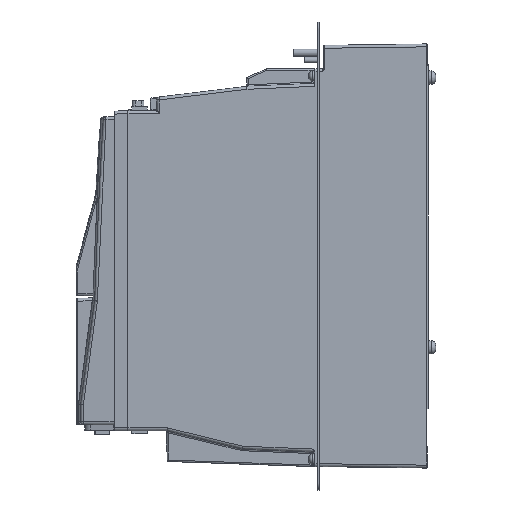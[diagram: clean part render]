
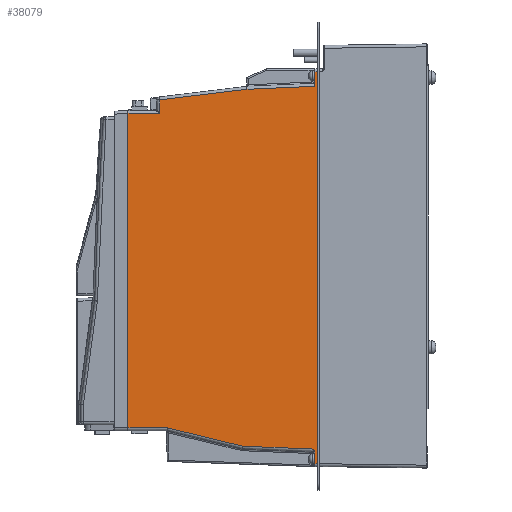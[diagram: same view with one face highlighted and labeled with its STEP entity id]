
A CAD part, left-side view. The second image highlights one B-rep face of the part: STEP entity #38079.
In plain terms, the highlighted planar face has unit normal (-1, 0, 0).
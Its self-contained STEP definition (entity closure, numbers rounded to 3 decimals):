
#504 = VERTEX_POINT ( 'NONE', #5247 ) ;
#1966 = EDGE_LOOP ( 'NONE', ( #31882, #2974, #8842, #34668, #6855, #27741, #6522, #6701, #5317, #6572, #7888, #35345, #17803, #39759 ) ) ;
#2077 = LINE ( 'NONE', #13744, #35202 ) ;
#2097 = DIRECTION ( 'NONE',  ( 0., 0., -1. ) ) ;
#2890 = CARTESIAN_POINT ( 'NONE',  ( -64., 76.5, -287. ) ) ;
#2974 = ORIENTED_EDGE ( 'NONE', *, *, #7722, .T. ) ;
#3319 = VECTOR ( 'NONE', #45098, 1000. ) ;
#3905 = CARTESIAN_POINT ( 'NONE',  ( -64., 202.8, -19. ) ) ;
#4047 = AXIS2_PLACEMENT_3D ( 'NONE', #44123, #29031, #44361 ) ;
#4454 = CARTESIAN_POINT ( 'NONE',  ( -64., 76.535, -278.634 ) ) ;
#5042 = VERTEX_POINT ( 'NONE', #16433 ) ;
#5180 = LINE ( 'NONE', #15900, #3319 ) ;
#5247 = CARTESIAN_POINT ( 'NONE',  ( -64., 77.5, -277.013 ) ) ;
#5262 = CARTESIAN_POINT ( 'NONE',  ( -64., 204.2, -262.5 ) ) ;
#5317 = ORIENTED_EDGE ( 'NONE', *, *, #24687, .T. ) ;
#6182 = VERTEX_POINT ( 'NONE', #5262 ) ;
#6522 = ORIENTED_EDGE ( 'NONE', *, *, #40449, .T. ) ;
#6572 = ORIENTED_EDGE ( 'NONE', *, *, #28027, .T. ) ;
#6701 = ORIENTED_EDGE ( 'NONE', *, *, #10682, .T. ) ;
#6855 = ORIENTED_EDGE ( 'NONE', *, *, #22402, .T. ) ;
#7722 = EDGE_CURVE ( 'NONE', #36376, #5042, #22426, .T. ) ;
#7888 = ORIENTED_EDGE ( 'NONE', *, *, #17232, .T. ) ;
#7958 = CARTESIAN_POINT ( 'NONE',  ( -64., 177.407, -262.5 ) ) ;
#8041 = DIRECTION ( 'NONE',  ( 0., 0.999, -0.043 ) ) ;
#8111 = CARTESIAN_POINT ( 'NONE',  ( -64., 77.259, -277.308 ) ) ;
#8687 = LINE ( 'NONE', #15992, #25684 ) ;
#8842 = ORIENTED_EDGE ( 'NONE', *, *, #15562, .T. ) ;
#10324 = VERTEX_POINT ( 'NONE', #45346 ) ;
#10483 = VECTOR ( 'NONE', #8041, 1000. ) ;
#10682 = EDGE_CURVE ( 'NONE', #34113, #32075, #15577, .T. ) ;
#11086 = VECTOR ( 'NONE', #17825, 1000. ) ;
#11318 = CARTESIAN_POINT ( 'NONE',  ( -64., 202.8, -262.5 ) ) ;
#11372 = DIRECTION ( 'NONE',  ( 0., -0.999, -0.041 ) ) ;
#12307 = CARTESIAN_POINT ( 'NONE',  ( -64., 76.92, -277.036 ) ) ;
#13744 = CARTESIAN_POINT ( 'NONE',  ( -64., 74.55, 10. ) ) ;
#13973 = DIRECTION ( 'NONE',  ( 0., 0., 1. ) ) ;
#15284 = CARTESIAN_POINT ( 'NONE',  ( -64., 74.55, -19. ) ) ;
#15562 = EDGE_CURVE ( 'NONE', #5042, #504, #23492, .T. ) ;
#15577 = LINE ( 'NONE', #3905, #22501 ) ;
#15637 = CARTESIAN_POINT ( 'NONE',  ( -64., 76.5, -278.822 ) ) ;
#15900 = CARTESIAN_POINT ( 'NONE',  ( -64., 76.5, -289. ) ) ;
#15992 = CARTESIAN_POINT ( 'NONE',  ( -64., 76.5, -289. ) ) ;
#16313 = DIRECTION ( 'NONE',  ( 0., -1., 0. ) ) ;
#16379 = VECTOR ( 'NONE', #28656, 1000. ) ;
#16433 = CARTESIAN_POINT ( 'NONE',  ( -64., 125.725, -275.044 ) ) ;
#17122 = B_SPLINE_CURVE_WITH_KNOTS ( 'NONE', 3,
 ( #44863, #8111, #33172, #22935, #34114, #4454, #15637, #30479 ),
 .UNSPECIFIED., .F., .F.,
 ( 4, 2, 2, 4 ),
 ( 0., 0.001, 0.002, 0.002 ),
 .UNSPECIFIED. ) ;
#17232 = EDGE_CURVE ( 'NONE', #21983, #40347, #44345, .T. ) ;
#17478 = LINE ( 'NONE', #21586, #16379 ) ;
#17803 = ORIENTED_EDGE ( 'NONE', *, *, #44046, .T. ) ;
#17825 = DIRECTION ( 'NONE',  ( 0., -0.972, -0.236 ) ) ;
#18290 = CARTESIAN_POINT ( 'NONE',  ( -64., 76.5, -19. ) ) ;
#19224 = DIRECTION ( 'NONE',  ( 0., 1., 0. ) ) ;
#21466 = VECTOR ( 'NONE', #26294, 1000. ) ;
#21586 = CARTESIAN_POINT ( 'NONE',  ( -64., 202.8, -47.5 ) ) ;
#21666 = CARTESIAN_POINT ( 'NONE',  ( -64., 202.8, -287. ) ) ;
#21983 = VERTEX_POINT ( 'NONE', #33707 ) ;
#22402 = EDGE_CURVE ( 'NONE', #10324, #35840, #8687, .T. ) ;
#22426 = LINE ( 'NONE', #47784, #11086 ) ;
#22501 = VECTOR ( 'NONE', #19224, 1000. ) ;
#22935 = CARTESIAN_POINT ( 'NONE',  ( -64., 76.733, -278.099 ) ) ;
#23240 = CARTESIAN_POINT ( 'NONE',  ( -64., 182.5, -38.271 ) ) ;
#23492 = LINE ( 'NONE', #12307, #23560 ) ;
#23560 = VECTOR ( 'NONE', #11372, 1000. ) ;
#24051 = CARTESIAN_POINT ( 'NONE',  ( -64., 74.55, -287. ) ) ;
#24467 = VERTEX_POINT ( 'NONE', #39051 ) ;
#24687 = EDGE_CURVE ( 'NONE', #32075, #44966, #5180, .T. ) ;
#24914 = CARTESIAN_POINT ( 'NONE',  ( -64., 182.5, -289. ) ) ;
#25684 = VECTOR ( 'NONE', #2097, 1000. ) ;
#26047 = CARTESIAN_POINT ( 'NONE',  ( -64., 204.2, 0. ) ) ;
#26267 = EDGE_CURVE ( 'NONE', #6182, #36376, #34822, .T. ) ;
#26294 = DIRECTION ( 'NONE',  ( 0., -1., 0. ) ) ;
#27741 = ORIENTED_EDGE ( 'NONE', *, *, #32079, .T. ) ;
#28027 = EDGE_CURVE ( 'NONE', #44966, #21983, #37001, .T. ) ;
#28283 = VECTOR ( 'NONE', #29255, 1000. ) ;
#28656 = DIRECTION ( 'NONE',  ( 0., 1., 0. ) ) ;
#28805 = DIRECTION ( 'NONE',  ( 0., 0., -1. ) ) ;
#29031 = DIRECTION ( 'NONE',  ( 1., 0., 0. ) ) ;
#29255 = DIRECTION ( 'NONE',  ( 0., 0.993, -0.121 ) ) ;
#30479 = CARTESIAN_POINT ( 'NONE',  ( -64., 76.5, -279.014 ) ) ;
#31087 = VERTEX_POINT ( 'NONE', #24051 ) ;
#31510 = CARTESIAN_POINT ( 'NONE',  ( -64., 182.5, -47.5 ) ) ;
#31557 = EDGE_CURVE ( 'NONE', #40347, #46584, #35873, .T. ) ;
#31882 = ORIENTED_EDGE ( 'NONE', *, *, #26267, .T. ) ;
#32075 = VERTEX_POINT ( 'NONE', #18290 ) ;
#32079 = EDGE_CURVE ( 'NONE', #35840, #31087, #44572, .T. ) ;
#33154 = CARTESIAN_POINT ( 'NONE',  ( -64., 76.5, -28.98 ) ) ;
#33172 = CARTESIAN_POINT ( 'NONE',  ( -64., 77.016, -277.606 ) ) ;
#33707 = CARTESIAN_POINT ( 'NONE',  ( -64., 122.835, -30.995 ) ) ;
#34113 = VERTEX_POINT ( 'NONE', #15284 ) ;
#34114 = CARTESIAN_POINT ( 'NONE',  ( -64., 76.652, -278.27 ) ) ;
#34668 = ORIENTED_EDGE ( 'NONE', *, *, #42944, .T. ) ;
#34822 = LINE ( 'NONE', #11318, #47694 ) ;
#35202 = VECTOR ( 'NONE', #13973, 1000. ) ;
#35345 = ORIENTED_EDGE ( 'NONE', *, *, #31557, .T. ) ;
#35840 = VERTEX_POINT ( 'NONE', #2890 ) ;
#35857 = VECTOR ( 'NONE', #44802, 1000. ) ;
#35873 = LINE ( 'NONE', #24914, #46313 ) ;
#36315 = CARTESIAN_POINT ( 'NONE',  ( -64., 232.631, -44.384 ) ) ;
#36376 = VERTEX_POINT ( 'NONE', #7958 ) ;
#37001 = LINE ( 'NONE', #41388, #10483 ) ;
#38079 = ADVANCED_FACE ( 'NONE', ( #40000 ), #48023, .F. ) ;
#38642 = EDGE_CURVE ( 'NONE', #6182, #24467, #41626, .T. ) ;
#39051 = CARTESIAN_POINT ( 'NONE',  ( -64., 204.2, -47.5 ) ) ;
#39759 = ORIENTED_EDGE ( 'NONE', *, *, #38642, .F. ) ;
#40000 = FACE_OUTER_BOUND ( 'NONE', #1966, .T. ) ;
#40347 = VERTEX_POINT ( 'NONE', #23240 ) ;
#40449 = EDGE_CURVE ( 'NONE', #31087, #34113, #2077, .T. ) ;
#41388 = CARTESIAN_POINT ( 'NONE',  ( -64., 213.846, -34.952 ) ) ;
#41626 = LINE ( 'NONE', #26047, #35857 ) ;
#42944 = EDGE_CURVE ( 'NONE', #504, #10324, #17122, .T. ) ;
#44046 = EDGE_CURVE ( 'NONE', #46584, #24467, #17478, .T. ) ;
#44123 = CARTESIAN_POINT ( 'NONE',  ( -64., 202.8, -289. ) ) ;
#44345 = LINE ( 'NONE', #36315, #28283 ) ;
#44361 = DIRECTION ( 'NONE',  ( 0., 0., -1. ) ) ;
#44572 = LINE ( 'NONE', #21666, #21466 ) ;
#44802 = DIRECTION ( 'NONE',  ( 0., 0., 1. ) ) ;
#44863 = CARTESIAN_POINT ( 'NONE',  ( -64., 77.5, -277.013 ) ) ;
#44966 = VERTEX_POINT ( 'NONE', #33154 ) ;
#45098 = DIRECTION ( 'NONE',  ( 0., 0., -1. ) ) ;
#45346 = CARTESIAN_POINT ( 'NONE',  ( -64., 76.5, -279.014 ) ) ;
#46313 = VECTOR ( 'NONE', #28805, 1000. ) ;
#46584 = VERTEX_POINT ( 'NONE', #31510 ) ;
#47694 = VECTOR ( 'NONE', #16313, 1000. ) ;
#47784 = CARTESIAN_POINT ( 'NONE',  ( -64., 125.536, -275.09 ) ) ;
#48023 = PLANE ( 'NONE',  #4047 ) ;
